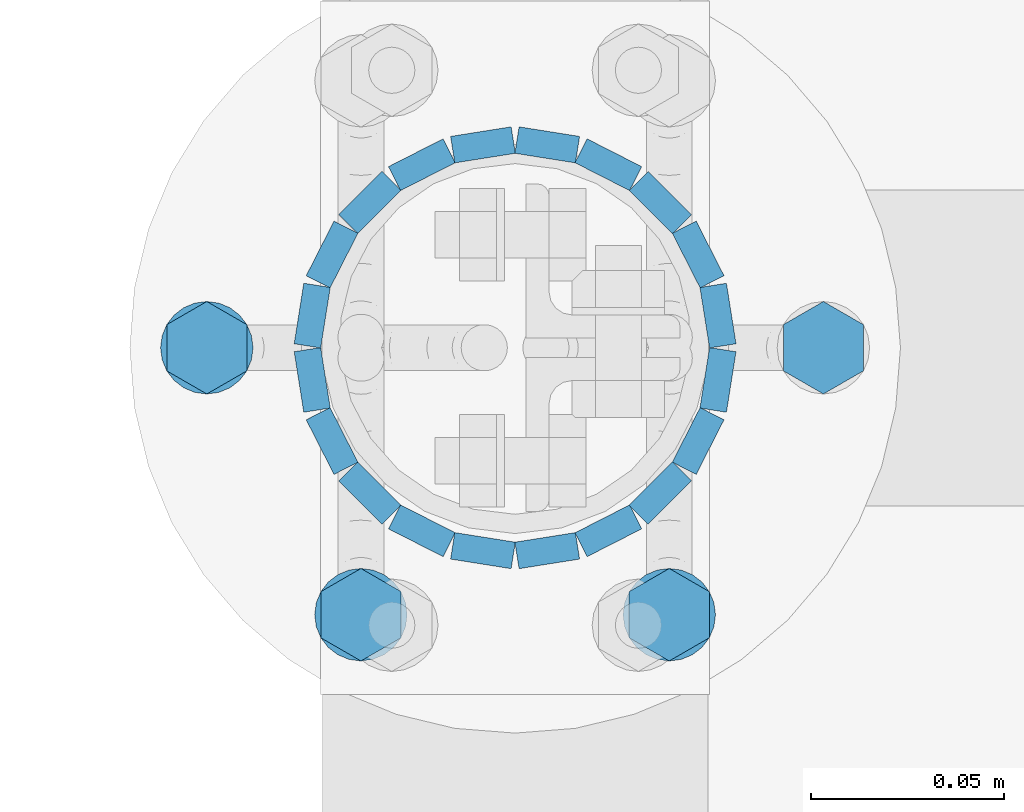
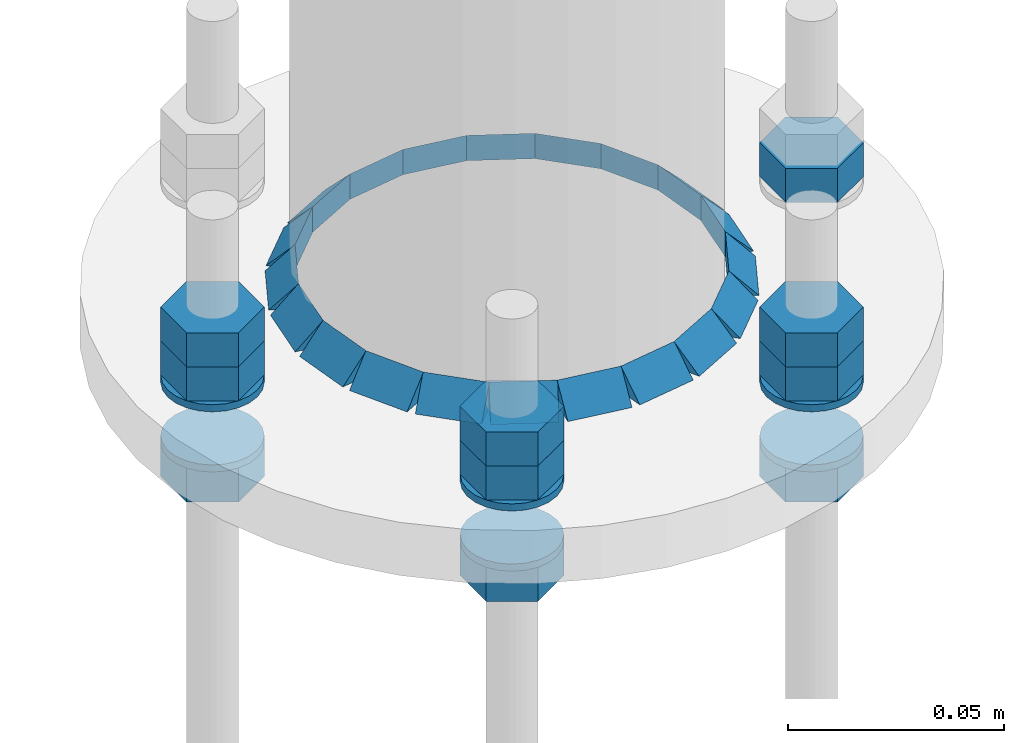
# One storey, part 16 of 84: 40 fasteners, 16 mechanical fasteners.
"""IFC4 building model written with IfcOpenShell, lengths in metres."""

from ifc_helpers import new_model, si_unit, frame, origin_with_axes, place, context, project, spatial, polyline, outline, extrude, type_object, element, save


model = new_model("IFC4")

# Units and contexts
model_context = context("Model", 3, precision=1e-05, world=origin_with_axes())
ifc_project = project(units=[si_unit("LENGTHUNIT", "METRE"), si_unit("AREAUNIT", "SQUARE_METRE"), si_unit("VOLUMEUNIT", "CUBIC_METRE"), si_unit("MASSUNIT", "GRAM", prefix="KILO"), si_unit("TIMEUNIT", "SECOND"), si_unit("PLANEANGLEUNIT", "RADIAN"), si_unit("SOLIDANGLEUNIT", "STERADIAN"), si_unit("THERMODYNAMICTEMPERATUREUNIT", "DEGREE_CELSIUS")], contexts=[model_context])

# Site, building, storey
placement_1 = place(None, origin_with_axes())
site = spatial("IfcSite", under=ifc_project, at=placement_1, Name="Italia", CompositionType="ELEMENT")
building = spatial("IfcBuilding", under=site, at=placement_1, Name="Tettoia", CompositionType="ELEMENT")
storey_placement = place(None, frame((0.0, 0.0, 4.199999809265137), z_axis=(0.0, 0.0, 1.0), x_axis=(1.0, 0.0, 0.0)))
storey = spatial("IfcBuildingStorey", under=building, at=storey_placement, Name="Storey 1", CompositionType="ELEMENT", Elevation=4.199999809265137)

# Fasteners
fastener_type_1 = type_object("IfcFastenerType", Name="Collegamento -001_0101", PredefinedType="WELD")
placement_2 = place(placement_1, origin_with_axes())
fastener_1_placement = place(placement_2, origin_with_axes())
element("IfcFastener", 1, at=fastener_1_placement, inside=storey, type_object=fastener_type_1, Name="Collegamento -001_0101", context=model_context, shape_type="SweptSolid", body=[
    extrude(outline(polyline([(0.0, 0.0), (0.00695801, 0.00717354), (0.00695801, 0.0), (0.0, 0.0)])), frame((8.30674, 2.05484, 4.01495), z_axis=(-0.987689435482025, 0.156427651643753, 0.0), x_axis=(-0.156427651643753, -0.987689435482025, 0.0)), (0.0, 0.0, 1.0), 0.0158999),
])
fastener_type_2 = type_object("IfcFastenerType", Name="Collegamento -001_0101", PredefinedType="WELD")
fastener_2_placement = place(placement_2, origin_with_axes())
element("IfcFastener", 2, at=fastener_2_placement, inside=storey, type_object=fastener_type_2, Name="Collegamento -001_0101", context=model_context, shape_type="SweptSolid", body=[
    extrude(outline(polyline([(0.0, 0.0), (0.00695801, 0.00717354), (0.00695801, 0.0), (0.0, 0.0)])), frame((8.32286, 2.04699, 4.01495), z_axis=(-0.891006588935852, 0.453990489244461, 0.0), x_axis=(-0.453990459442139, -0.891006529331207, 0.0)), (0.0, 0.0, 1.0), 0.0158998),
])
fastener_type_3 = type_object("IfcFastenerType", Name="Collegamento -001_0101", PredefinedType="WELD")
fastener_3_placement = place(placement_2, origin_with_axes())
element("IfcFastener", 3, at=fastener_3_placement, inside=storey, type_object=fastener_type_3, Name="Collegamento -001_0101", context=model_context, shape_type="SweptSolid", body=[
    extrude(outline(polyline([(0.0, 0.0), (0.00695801, 0.00717354), (0.00695801, 0.0), (0.0, 0.0)])), frame((8.33578, 2.03453, 4.01495), z_axis=(-0.707099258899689, 0.707114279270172, 0.0), x_axis=(-0.707114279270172, -0.707099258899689, 0.0)), (0.0, 0.0, 1.0), 0.0159),
])
fastener_type_4 = type_object("IfcFastenerType", Name="Collegamento -001_0101", PredefinedType="WELD")
fastener_4_placement = place(placement_2, origin_with_axes())
element("IfcFastener", 4, at=fastener_4_placement, inside=storey, type_object=fastener_type_4, Name="Collegamento -001_0101", context=model_context, shape_type="SweptSolid", body=[
    extrude(outline(polyline([(0.0, 0.0), (0.00695801, 0.00717354), (0.00695801, 0.0), (0.0, 0.0)])), frame((8.34421, 2.0187, 4.01495), z_axis=(-0.453990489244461, 0.891006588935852, 0.0), x_axis=(-0.891006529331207, -0.453990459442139, 0.0)), (0.0, 0.0, 1.0), 0.0158998),
])
fastener_type_5 = type_object("IfcFastenerType", Name="Collegamento -001_0101", PredefinedType="WELD")
fastener_5_placement = place(placement_2, origin_with_axes())
element("IfcFastener", 5, at=fastener_5_placement, inside=storey, type_object=fastener_type_5, Name="Collegamento -001_0101", context=model_context, shape_type="SweptSolid", body=[
    extrude(outline(polyline([(0.0, 0.0), (0.00695801, 0.00717354), (0.00695801, 0.0), (0.0, 0.0)])), frame((8.34733, 2.00103, 4.01495), z_axis=(-0.1564861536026, 0.987680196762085, 0.0), x_axis=(-0.98768013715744, -0.156486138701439, 0.0)), (0.0, 0.0, 1.0), 0.0159),
])
fastener_type_6 = type_object("IfcFastenerType", Name="Collegamento -001_0101", PredefinedType="WELD")
fastener_6_placement = place(placement_2, origin_with_axes())
element("IfcFastener", 6, at=fastener_6_placement, inside=storey, type_object=fastener_type_6, Name="Collegamento -001_0101", context=model_context, shape_type="SweptSolid", body=[
    extrude(outline(polyline([(0.0, 0.0), (0.00695801, 0.00717354), (0.00695801, 0.0), (0.0, 0.0)])), frame((8.34484, 1.98326, 4.01495), z_axis=(0.1564861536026, 0.987680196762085, 0.0), x_axis=(-0.98768013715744, 0.156486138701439, 0.0)), (0.0, 0.0, 1.0), 0.0159),
])
fastener_type_7 = type_object("IfcFastenerType", Name="Collegamento -001_0101", PredefinedType="WELD")
fastener_7_placement = place(placement_2, origin_with_axes())
element("IfcFastener", 7, at=fastener_7_placement, inside=storey, type_object=fastener_type_7, Name="Collegamento -001_0101", context=model_context, shape_type="SweptSolid", body=[
    extrude(outline(polyline([(0.0, 0.0), (0.00695801, 0.00717354), (0.00695801, 0.0), (0.0, 0.0)])), frame((8.33699, 1.96714, 4.01495), z_axis=(0.453990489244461, 0.891006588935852, 0.0), x_axis=(-0.891006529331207, 0.453990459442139, 0.0)), (0.0, 0.0, 1.0), 0.0158998),
])
fastener_type_8 = type_object("IfcFastenerType", Name="Collegamento -001_0101", PredefinedType="WELD")
fastener_8_placement = place(placement_2, origin_with_axes())
element("IfcFastener", 8, at=fastener_8_placement, inside=storey, type_object=fastener_type_8, Name="Collegamento -001_0101", context=model_context, shape_type="SweptSolid", body=[
    extrude(outline(polyline([(0.0, 0.0), (0.00695848, 0.00717354), (0.00695848, 0.0), (0.0, 0.0)])), frame((8.32453, 1.95422, 4.01495), z_axis=(0.70710301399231, 0.707110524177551, 0.0), x_axis=(-0.707110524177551, 0.70710301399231, 0.0)), (0.0, 0.0, 1.0), 0.0158999),
])
fastener_type_9 = type_object("IfcFastenerType", Name="Collegamento -001_0101", PredefinedType="WELD")
fastener_9_placement = place(placement_2, origin_with_axes())
element("IfcFastener", 9, at=fastener_9_placement, inside=storey, type_object=fastener_type_9, Name="Collegamento -001_0101", context=model_context, shape_type="SweptSolid", body=[
    extrude(outline(polyline([(0.0, 0.0), (0.00695848, 0.00717354), (0.00695848, 0.0), (0.0, 0.0)])), frame((8.3087, 1.94579, 4.01495), z_axis=(0.891009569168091, 0.453984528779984, 0.0), x_axis=(-0.453984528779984, 0.891009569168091, 0.0)), (0.0, 0.0, 1.0), 0.0158998),
])
fastener_type_10 = type_object("IfcFastenerType", Name="Collegamento -001_0101", PredefinedType="WELD")
fastener_10_placement = place(placement_2, origin_with_axes())
element("IfcFastener", 10, at=fastener_10_placement, inside=storey, type_object=fastener_type_10, Name="Collegamento -001_0101", context=model_context, shape_type="SweptSolid", body=[
    extrude(outline(polyline([(0.0, 0.0), (0.00695813, 0.00717354), (0.00695813, 0.0), (0.0, 0.0)])), frame((8.29103, 1.94267, 4.01495), z_axis=(0.987688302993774, 0.156434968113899, 0.0), x_axis=(-0.156434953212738, 0.98768824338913, 0.0)), (0.0, 0.0, 1.0), 0.0158999),
])
fastener_type_11 = type_object("IfcFastenerType", Name="Collegamento -001_0101", PredefinedType="WELD")
fastener_11_placement = place(placement_2, origin_with_axes())
element("IfcFastener", 11, at=fastener_11_placement, inside=storey, type_object=fastener_type_11, Name="Collegamento -001_0101", context=model_context, shape_type="SweptSolid", body=[
    extrude(outline(polyline([(0.0, 0.0), (0.00695825, 0.00717354), (0.00695825, 0.0), (0.0, 0.0)])), frame((8.27326, 1.94516, 4.01495), z_axis=(0.987688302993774, -0.156434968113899, 0.0), x_axis=(0.156434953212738, 0.98768824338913, 0.0)), (0.0, 0.0, 1.0), 0.0158999),
])
fastener_type_12 = type_object("IfcFastenerType", Name="Collegamento -001_0101", PredefinedType="WELD")
fastener_12_placement = place(placement_2, origin_with_axes())
element("IfcFastener", 12, at=fastener_12_placement, inside=storey, type_object=fastener_type_12, Name="Collegamento -001_0101", context=model_context, shape_type="SweptSolid", body=[
    extrude(outline(polyline([(0.0, 0.0), (0.00695801, 0.00717354), (0.00695801, 0.0), (0.0, 0.0)])), frame((8.25714, 1.95301, 4.01495), z_axis=(0.891009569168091, -0.453984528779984, 0.0), x_axis=(0.453984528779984, 0.891009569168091, 0.0)), (0.0, 0.0, 1.0), 0.0158998),
])
fastener_type_13 = type_object("IfcFastenerType", Name="Collegamento -001_0101", PredefinedType="WELD")
fastener_13_placement = place(placement_2, origin_with_axes())
element("IfcFastener", 13, at=fastener_13_placement, inside=storey, type_object=fastener_type_13, Name="Collegamento -001_0101", context=model_context, shape_type="SweptSolid", body=[
    extrude(outline(polyline([(0.0, 0.0), (0.00695801, 0.00717354), (0.00695801, 0.0), (0.0, 0.0)])), frame((8.24422, 1.96547, 4.01495), z_axis=(0.70710301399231, -0.707110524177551, 0.0), x_axis=(0.707110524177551, 0.70710301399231, 0.0)), (0.0, 0.0, 1.0), 0.0158999),
])
fastener_type_14 = type_object("IfcFastenerType", Name="Collegamento -001_0101", PredefinedType="WELD")
fastener_14_placement = place(placement_2, origin_with_axes())
element("IfcFastener", 14, at=fastener_14_placement, inside=storey, type_object=fastener_type_14, Name="Collegamento -001_0101", context=model_context, shape_type="SweptSolid", body=[
    extrude(outline(polyline([(0.0, 0.0), (0.00695801, 0.00717354), (0.00695801, 0.0), (0.0, 0.0)])), frame((8.23579, 1.9813, 4.01495), z_axis=(0.453990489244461, -0.891006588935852, 0.0), x_axis=(0.891006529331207, 0.453990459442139, 0.0)), (0.0, 0.0, 1.0), 0.0158998),
])
fastener_type_15 = type_object("IfcFastenerType", Name="Collegamento -001_0101", PredefinedType="WELD")
fastener_15_placement = place(placement_2, origin_with_axes())
element("IfcFastener", 15, at=fastener_15_placement, inside=storey, type_object=fastener_type_15, Name="Collegamento -001_0101", context=model_context, shape_type="SweptSolid", body=[
    extrude(outline(polyline([(0.0, 0.0), (0.00695992, 0.00717354), (0.00695992, 0.0), (0.0, 0.0)])), frame((8.23267, 1.99897, 4.01495), z_axis=(0.1564861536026, -0.987680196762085, 0.0), x_axis=(0.98768013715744, 0.156486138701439, 0.0)), (0.0, 0.0, 1.0), 0.0159),
])
fastener_type_16 = type_object("IfcFastenerType", Name="Collegamento -001_0101", PredefinedType="WELD")
fastener_16_placement = place(placement_2, origin_with_axes())
element("IfcFastener", 16, at=fastener_16_placement, inside=storey, type_object=fastener_type_16, Name="Collegamento -001_0101", context=model_context, shape_type="SweptSolid", body=[
    extrude(outline(polyline([(0.0, 0.0), (0.00695801, 0.00717354), (0.00695801, 0.0), (0.0, 0.0)])), frame((8.23516, 2.01674, 4.01495), z_axis=(-0.1564861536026, -0.987680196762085, 0.0), x_axis=(0.98768013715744, -0.156486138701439, 0.0)), (0.0, 0.0, 1.0), 0.0159),
])
fastener_type_17 = type_object("IfcFastenerType", Name="Collegamento -001_0101", PredefinedType="WELD")
fastener_17_placement = place(placement_2, origin_with_axes())
element("IfcFastener", 17, at=fastener_17_placement, inside=storey, type_object=fastener_type_17, Name="Collegamento -001_0101", context=model_context, shape_type="SweptSolid", body=[
    extrude(outline(polyline([(0.0, 0.0), (0.00695801, 0.00717354), (0.00695801, 0.0), (0.0, 0.0)])), frame((8.24301, 2.03286, 4.01495), z_axis=(-0.453990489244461, -0.891006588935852, 0.0), x_axis=(0.891006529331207, -0.453990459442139, 0.0)), (0.0, 0.0, 1.0), 0.0158998),
])
fastener_type_18 = type_object("IfcFastenerType", Name="Collegamento -001_0101", PredefinedType="WELD")
fastener_18_placement = place(placement_2, origin_with_axes())
element("IfcFastener", 18, at=fastener_18_placement, inside=storey, type_object=fastener_type_18, Name="Collegamento -001_0101", context=model_context, shape_type="SweptSolid", body=[
    extrude(outline(polyline([(0.0, 0.0), (0.00695801, 0.00717354), (0.00695801, 0.0), (0.0, 0.0)])), frame((8.25547, 2.04578, 4.01495), z_axis=(-0.707099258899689, -0.707114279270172, 0.0), x_axis=(0.707114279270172, -0.707099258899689, 0.0)), (0.0, 0.0, 1.0), 0.0159),
])
fastener_type_19 = type_object("IfcFastenerType", Name="Collegamento -001_0101", PredefinedType="WELD")
fastener_19_placement = place(placement_2, origin_with_axes())
element("IfcFastener", 19, at=fastener_19_placement, inside=storey, type_object=fastener_type_19, Name="Collegamento -001_0101", context=model_context, shape_type="SweptSolid", body=[
    extrude(outline(polyline([(0.0, 0.0), (0.00695872, 0.00717354), (0.00695872, 0.0), (0.0, 0.0)])), frame((8.2713, 2.05421, 4.01495), z_axis=(-0.891006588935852, -0.453990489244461, 0.0), x_axis=(0.453990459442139, -0.891006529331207, 0.0)), (0.0, 0.0, 1.0), 0.0158998),
])
fastener_type_20 = type_object("IfcFastenerType", Name="Collegamento -001_0101", PredefinedType="WELD")
fastener_20_placement = place(placement_2, origin_with_axes())
element("IfcFastener", 20, at=fastener_20_placement, inside=storey, type_object=fastener_type_20, Name="Collegamento -001_0101", context=model_context, shape_type="SweptSolid", body=[
    extrude(outline(polyline([(0.0, 0.0), (0.00695801, 0.00717354), (0.00695801, 0.0), (0.0, 0.0)])), frame((8.28897, 2.05733, 4.01495), z_axis=(-0.987689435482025, -0.156427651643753, 0.0), x_axis=(0.156427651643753, -0.987689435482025, 0.0)), (0.0, 0.0, 1.0), 0.0158999),
])
fastener_type_21 = type_object("IfcFastenerType", Name="Collegamento -001_0101", PredefinedType="WELD")
fastener_21_placement = place(placement_2, origin_with_axes())
element("IfcFastener", 21, at=fastener_21_placement, inside=storey, type_object=fastener_type_21, Name="Collegamento -001_0101", context=model_context, shape_type="SweptSolid", body=[
    extrude(outline(polyline([(0.0, 0.0), (0.00695801, 0.00717354), (0.00695801, 0.0), (0.0, 0.0)])), frame((8.30674, 2.05484, 4.01495), z_axis=(-0.987689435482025, 0.156427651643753, 0.0), x_axis=(-0.156427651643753, -0.987689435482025, 0.0)), (0.0, 0.0, 1.0), 0.0158999),
])
fastener_type_22 = type_object("IfcFastenerType", Name="Collegamento -001_0101", PredefinedType="WELD")
fastener_22_placement = place(placement_2, origin_with_axes())
element("IfcFastener", 22, at=fastener_22_placement, inside=storey, type_object=fastener_type_22, Name="Collegamento -001_0101", context=model_context, shape_type="SweptSolid", body=[
    extrude(outline(polyline([(0.0, 0.0), (0.00695801, 0.00717354), (0.00695801, 0.0), (0.0, 0.0)])), frame((8.32286, 2.04699, 4.01495), z_axis=(-0.891006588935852, 0.453990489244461, 0.0), x_axis=(-0.453990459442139, -0.891006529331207, 0.0)), (0.0, 0.0, 1.0), 0.0158998),
])
fastener_type_23 = type_object("IfcFastenerType", Name="Collegamento -001_0101", PredefinedType="WELD")
fastener_23_placement = place(placement_2, origin_with_axes())
element("IfcFastener", 23, at=fastener_23_placement, inside=storey, type_object=fastener_type_23, Name="Collegamento -001_0101", context=model_context, shape_type="SweptSolid", body=[
    extrude(outline(polyline([(0.0, 0.0), (0.00695801, 0.00717354), (0.00695801, 0.0), (0.0, 0.0)])), frame((8.33578, 2.03453, 4.01495), z_axis=(-0.707099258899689, 0.707114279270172, 0.0), x_axis=(-0.707114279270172, -0.707099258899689, 0.0)), (0.0, 0.0, 1.0), 0.0159),
])
fastener_type_24 = type_object("IfcFastenerType", Name="Collegamento -001_0101", PredefinedType="WELD")
fastener_24_placement = place(placement_2, origin_with_axes())
element("IfcFastener", 24, at=fastener_24_placement, inside=storey, type_object=fastener_type_24, Name="Collegamento -001_0101", context=model_context, shape_type="SweptSolid", body=[
    extrude(outline(polyline([(0.0, 0.0), (0.00695801, 0.00717354), (0.00695801, 0.0), (0.0, 0.0)])), frame((8.34421, 2.0187, 4.01495), z_axis=(-0.453990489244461, 0.891006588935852, 0.0), x_axis=(-0.891006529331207, -0.453990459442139, 0.0)), (0.0, 0.0, 1.0), 0.0158998),
])
fastener_type_25 = type_object("IfcFastenerType", Name="Collegamento -001_0101", PredefinedType="WELD")
fastener_25_placement = place(placement_2, origin_with_axes())
element("IfcFastener", 25, at=fastener_25_placement, inside=storey, type_object=fastener_type_25, Name="Collegamento -001_0101", context=model_context, shape_type="SweptSolid", body=[
    extrude(outline(polyline([(0.0, 0.0), (0.00695801, 0.00717354), (0.00695801, 0.0), (0.0, 0.0)])), frame((8.34733, 2.00103, 4.01495), z_axis=(-0.1564861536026, 0.987680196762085, 0.0), x_axis=(-0.98768013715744, -0.156486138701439, 0.0)), (0.0, 0.0, 1.0), 0.0159),
])
fastener_type_26 = type_object("IfcFastenerType", Name="Collegamento -001_0101", PredefinedType="WELD")
fastener_26_placement = place(placement_2, origin_with_axes())
element("IfcFastener", 26, at=fastener_26_placement, inside=storey, type_object=fastener_type_26, Name="Collegamento -001_0101", context=model_context, shape_type="SweptSolid", body=[
    extrude(outline(polyline([(0.0, 0.0), (0.00695801, 0.00717354), (0.00695801, 0.0), (0.0, 0.0)])), frame((8.34484, 1.98326, 4.01495), z_axis=(0.1564861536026, 0.987680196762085, 0.0), x_axis=(-0.98768013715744, 0.156486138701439, 0.0)), (0.0, 0.0, 1.0), 0.0159),
])
fastener_type_27 = type_object("IfcFastenerType", Name="Collegamento -001_0101", PredefinedType="WELD")
fastener_27_placement = place(placement_2, origin_with_axes())
element("IfcFastener", 27, at=fastener_27_placement, inside=storey, type_object=fastener_type_27, Name="Collegamento -001_0101", context=model_context, shape_type="SweptSolid", body=[
    extrude(outline(polyline([(0.0, 0.0), (0.00695801, 0.00717354), (0.00695801, 0.0), (0.0, 0.0)])), frame((8.33699, 1.96714, 4.01495), z_axis=(0.453990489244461, 0.891006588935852, 0.0), x_axis=(-0.891006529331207, 0.453990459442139, 0.0)), (0.0, 0.0, 1.0), 0.0158998),
])
fastener_type_28 = type_object("IfcFastenerType", Name="Collegamento -001_0101", PredefinedType="WELD")
fastener_28_placement = place(placement_2, origin_with_axes())
element("IfcFastener", 28, at=fastener_28_placement, inside=storey, type_object=fastener_type_28, Name="Collegamento -001_0101", context=model_context, shape_type="SweptSolid", body=[
    extrude(outline(polyline([(0.0, 0.0), (0.00695848, 0.00717354), (0.00695848, 0.0), (0.0, 0.0)])), frame((8.32453, 1.95422, 4.01495), z_axis=(0.70710301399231, 0.707110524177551, 0.0), x_axis=(-0.707110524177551, 0.70710301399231, 0.0)), (0.0, 0.0, 1.0), 0.0158999),
])
fastener_type_29 = type_object("IfcFastenerType", Name="Collegamento -001_0101", PredefinedType="WELD")
fastener_29_placement = place(placement_2, origin_with_axes())
element("IfcFastener", 29, at=fastener_29_placement, inside=storey, type_object=fastener_type_29, Name="Collegamento -001_0101", context=model_context, shape_type="SweptSolid", body=[
    extrude(outline(polyline([(0.0, 0.0), (0.00695848, 0.00717354), (0.00695848, 0.0), (0.0, 0.0)])), frame((8.3087, 1.94579, 4.01495), z_axis=(0.891009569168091, 0.453984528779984, 0.0), x_axis=(-0.453984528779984, 0.891009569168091, 0.0)), (0.0, 0.0, 1.0), 0.0158998),
])
fastener_type_30 = type_object("IfcFastenerType", Name="Collegamento -001_0101", PredefinedType="WELD")
fastener_30_placement = place(placement_2, origin_with_axes())
element("IfcFastener", 30, at=fastener_30_placement, inside=storey, type_object=fastener_type_30, Name="Collegamento -001_0101", context=model_context, shape_type="SweptSolid", body=[
    extrude(outline(polyline([(0.0, 0.0), (0.00695813, 0.00717354), (0.00695813, 0.0), (0.0, 0.0)])), frame((8.29103, 1.94267, 4.01495), z_axis=(0.987688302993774, 0.156434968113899, 0.0), x_axis=(-0.156434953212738, 0.98768824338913, 0.0)), (0.0, 0.0, 1.0), 0.0158999),
])
fastener_type_31 = type_object("IfcFastenerType", Name="Collegamento -001_0101", PredefinedType="WELD")
fastener_31_placement = place(placement_2, origin_with_axes())
element("IfcFastener", 31, at=fastener_31_placement, inside=storey, type_object=fastener_type_31, Name="Collegamento -001_0101", context=model_context, shape_type="SweptSolid", body=[
    extrude(outline(polyline([(0.0, 0.0), (0.00695825, 0.00717354), (0.00695825, 0.0), (0.0, 0.0)])), frame((8.27326, 1.94516, 4.01495), z_axis=(0.987688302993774, -0.156434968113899, 0.0), x_axis=(0.156434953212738, 0.98768824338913, 0.0)), (0.0, 0.0, 1.0), 0.0158999),
])
fastener_type_32 = type_object("IfcFastenerType", Name="Collegamento -001_0101", PredefinedType="WELD")
fastener_32_placement = place(placement_2, origin_with_axes())
element("IfcFastener", 32, at=fastener_32_placement, inside=storey, type_object=fastener_type_32, Name="Collegamento -001_0101", context=model_context, shape_type="SweptSolid", body=[
    extrude(outline(polyline([(0.0, 0.0), (0.00695801, 0.00717354), (0.00695801, 0.0), (0.0, 0.0)])), frame((8.25714, 1.95301, 4.01495), z_axis=(0.891009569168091, -0.453984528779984, 0.0), x_axis=(0.453984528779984, 0.891009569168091, 0.0)), (0.0, 0.0, 1.0), 0.0158998),
])
fastener_type_33 = type_object("IfcFastenerType", Name="Collegamento -001_0101", PredefinedType="WELD")
fastener_33_placement = place(placement_2, origin_with_axes())
element("IfcFastener", 33, at=fastener_33_placement, inside=storey, type_object=fastener_type_33, Name="Collegamento -001_0101", context=model_context, shape_type="SweptSolid", body=[
    extrude(outline(polyline([(0.0, 0.0), (0.00695801, 0.00717354), (0.00695801, 0.0), (0.0, 0.0)])), frame((8.24422, 1.96547, 4.01495), z_axis=(0.70710301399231, -0.707110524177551, 0.0), x_axis=(0.707110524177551, 0.70710301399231, 0.0)), (0.0, 0.0, 1.0), 0.0158999),
])
fastener_type_34 = type_object("IfcFastenerType", Name="Collegamento -001_0101", PredefinedType="WELD")
fastener_34_placement = place(placement_2, origin_with_axes())
element("IfcFastener", 34, at=fastener_34_placement, inside=storey, type_object=fastener_type_34, Name="Collegamento -001_0101", context=model_context, shape_type="SweptSolid", body=[
    extrude(outline(polyline([(0.0, 0.0), (0.00695801, 0.00717354), (0.00695801, 0.0), (0.0, 0.0)])), frame((8.23579, 1.9813, 4.01495), z_axis=(0.453990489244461, -0.891006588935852, 0.0), x_axis=(0.891006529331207, 0.453990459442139, 0.0)), (0.0, 0.0, 1.0), 0.0158998),
])
fastener_type_35 = type_object("IfcFastenerType", Name="Collegamento -001_0101", PredefinedType="WELD")
fastener_35_placement = place(placement_2, origin_with_axes())
element("IfcFastener", 35, at=fastener_35_placement, inside=storey, type_object=fastener_type_35, Name="Collegamento -001_0101", context=model_context, shape_type="SweptSolid", body=[
    extrude(outline(polyline([(0.0, 0.0), (0.00695992, 0.00717354), (0.00695992, 0.0), (0.0, 0.0)])), frame((8.23267, 1.99897, 4.01495), z_axis=(0.1564861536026, -0.987680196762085, 0.0), x_axis=(0.98768013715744, 0.156486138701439, 0.0)), (0.0, 0.0, 1.0), 0.0159),
])
fastener_type_36 = type_object("IfcFastenerType", Name="Collegamento -001_0101", PredefinedType="WELD")
fastener_36_placement = place(placement_2, origin_with_axes())
element("IfcFastener", 36, at=fastener_36_placement, inside=storey, type_object=fastener_type_36, Name="Collegamento -001_0101", context=model_context, shape_type="SweptSolid", body=[
    extrude(outline(polyline([(0.0, 0.0), (0.00695801, 0.00717354), (0.00695801, 0.0), (0.0, 0.0)])), frame((8.23516, 2.01674, 4.01495), z_axis=(-0.1564861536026, -0.987680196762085, 0.0), x_axis=(0.98768013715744, -0.156486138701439, 0.0)), (0.0, 0.0, 1.0), 0.0159),
])
fastener_type_37 = type_object("IfcFastenerType", Name="Collegamento -001_0101", PredefinedType="WELD")
fastener_37_placement = place(placement_2, origin_with_axes())
element("IfcFastener", 37, at=fastener_37_placement, inside=storey, type_object=fastener_type_37, Name="Collegamento -001_0101", context=model_context, shape_type="SweptSolid", body=[
    extrude(outline(polyline([(0.0, 0.0), (0.00695801, 0.00717354), (0.00695801, 0.0), (0.0, 0.0)])), frame((8.24301, 2.03286, 4.01495), z_axis=(-0.453990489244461, -0.891006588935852, 0.0), x_axis=(0.891006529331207, -0.453990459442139, 0.0)), (0.0, 0.0, 1.0), 0.0158998),
])
fastener_type_38 = type_object("IfcFastenerType", Name="Collegamento -001_0101", PredefinedType="WELD")
fastener_38_placement = place(placement_2, origin_with_axes())
element("IfcFastener", 38, at=fastener_38_placement, inside=storey, type_object=fastener_type_38, Name="Collegamento -001_0101", context=model_context, shape_type="SweptSolid", body=[
    extrude(outline(polyline([(0.0, 0.0), (0.00695801, 0.00717354), (0.00695801, 0.0), (0.0, 0.0)])), frame((8.25547, 2.04578, 4.01495), z_axis=(-0.707099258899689, -0.707114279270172, 0.0), x_axis=(0.707114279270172, -0.707099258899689, 0.0)), (0.0, 0.0, 1.0), 0.0159),
])
fastener_type_39 = type_object("IfcFastenerType", Name="Collegamento -001_0101", PredefinedType="WELD")
fastener_39_placement = place(placement_2, origin_with_axes())
element("IfcFastener", 39, at=fastener_39_placement, inside=storey, type_object=fastener_type_39, Name="Collegamento -001_0101", context=model_context, shape_type="SweptSolid", body=[
    extrude(outline(polyline([(0.0, 0.0), (0.00695872, 0.00717354), (0.00695872, 0.0), (0.0, 0.0)])), frame((8.2713, 2.05421, 4.01495), z_axis=(-0.891006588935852, -0.453990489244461, 0.0), x_axis=(0.453990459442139, -0.891006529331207, 0.0)), (0.0, 0.0, 1.0), 0.0158998),
])
fastener_type_40 = type_object("IfcFastenerType", Name="Collegamento -001_0101", PredefinedType="WELD")
fastener_40_placement = place(placement_2, origin_with_axes())
element("IfcFastener", 40, at=fastener_40_placement, inside=storey, type_object=fastener_type_40, Name="Collegamento -001_0101", context=model_context, shape_type="SweptSolid", body=[
    extrude(outline(polyline([(0.0, 0.0), (0.00695801, 0.00717354), (0.00695801, 0.0), (0.0, 0.0)])), frame((8.28897, 2.05733, 4.01495), z_axis=(-0.987689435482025, -0.156427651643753, 0.0), x_axis=(0.156427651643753, -0.987689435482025, 0.0)), (0.0, 0.0, 1.0), 0.0158999),
])

# Mechanical fasteners
mechanical_fastener_type_1 = type_object("IfcMechanicalFastenerType", Name="Collegamento -001_0101", PredefinedType="BOLT")
mechanical_fastener_1_placement = place(placement_2, origin_with_axes())
element("IfcMechanicalFastener", 41, at=mechanical_fastener_1_placement, inside=storey, type_object=mechanical_fastener_type_1, Name="Collegamento -001_0101", NominalDiameter=0.0119999, context=model_context, shape_type="SweptSolid", body=[
    extrude(outline(polyline([(0.0, 0.0), (-0.0120001, 0.0), (-0.018, 0.0103922), (-0.0120001, 0.0207844), (0.0, 0.0207844), (0.00600004, 0.0103922), (0.0, 0.0)])), frame((8.22039, 2.006, 4.017), z_axis=(0.0, 0.0, 1.0), x_axis=(0.0, 1.0, 0.0)), (0.0, 0.0, 1.0), 0.00959969),
])
mechanical_fastener_type_2 = type_object("IfcMechanicalFastenerType", Name="Collegamento -001_0101", PredefinedType="BOLT")
mechanical_fastener_2_placement = place(placement_2, origin_with_axes())
element("IfcMechanicalFastener", 42, at=mechanical_fastener_2_placement, inside=storey, type_object=mechanical_fastener_type_2, Name="Collegamento -001_0101", NominalDiameter=0.0119999, context=model_context, shape_type="SweptSolid", body=[
    extrude(outline(polyline([(0.0, 0.0), (-0.0120001, 0.0), (-0.018, 0.0103922), (-0.0120001, 0.0207844), (0.0, 0.0207844), (0.00600004, 0.0103922), (0.0, 0.0)])), frame((8.22039, 2.006, 4.0266), z_axis=(0.0, 0.0, 1.0), x_axis=(0.0, 1.0, 0.0)), (0.0, 0.0, 1.0), 0.00960016),
])
mechanical_fastener_type_3 = type_object("IfcMechanicalFastenerType", Name="Collegamento -001_0101", PredefinedType="BOLT")
mechanical_fastener_3_placement = place(placement_2, origin_with_axes())
element("IfcMechanicalFastener", 43, at=mechanical_fastener_3_placement, inside=storey, type_object=mechanical_fastener_type_3, Name="Collegamento -001_0101", NominalDiameter=0.0119999, context=model_context, shape_type="SweptSolid", body=[
    extrude(outline(polyline([(0.0, 0.0), (-0.0120001, 0.0), (-0.018, 0.0103922), (-0.0120001, 0.0207844), (0.0, 0.0207844), (0.00600004, 0.0103922), (0.0, 0.0)])), frame((8.22039, 2.006, 3.9884), z_axis=(0.0, 0.0, 1.0), x_axis=(0.0, 1.0, 0.0)), (0.0, 0.0, 1.0), 0.00959992),
])
mechanical_fastener_type_4 = type_object("IfcMechanicalFastenerType", Name="Collegamento -001_0101", PredefinedType="BOLT")
mechanical_fastener_4_placement = place(placement_2, origin_with_axes())
element("IfcMechanicalFastener", 44, at=mechanical_fastener_4_placement, inside=storey, type_object=mechanical_fastener_type_4, Name="Collegamento -001_0101", NominalDiameter=0.024, context=model_context, shape_type="SweptSolid", body=[
    extrude(outline(polyline([(0.0, 0.0), (-0.000408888, -0.00310612), (-0.00160789, -0.00599957), (-0.00351477, -0.00848484), (-0.00600004, -0.0103922), (-0.00889421, -0.011591), (-0.0120001, -0.0120001), (-0.015106, -0.011591), (-0.0180001, -0.0103922), (-0.0204854, -0.00848484), (-0.0223924, -0.00599957), (-0.0235912, -0.00310612), (-0.024, 0.0), (-0.0235912, 0.00310612), (-0.0223924, 0.00599957), (-0.0204854, 0.00848484), (-0.0180001, 0.0103922), (-0.015106, 0.011591), (-0.0120001, 0.0120001), (-0.00889421, 0.011591), (-0.00600004, 0.0103922), (-0.00351477, 0.00848484), (-0.00160789, 0.00599957), (-0.000408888, 0.00310612), (0.0, 0.0)])), frame((8.21, 2.012, 4.015), z_axis=(0.0, 0.0, 1.0), x_axis=(0.0, 1.0, 0.0)), (0.0, 0.0, 1.0), 0.00200033),
])
mechanical_fastener_type_5 = type_object("IfcMechanicalFastenerType", Name="Collegamento -001_0101", PredefinedType="BOLT")
mechanical_fastener_5_placement = place(placement_2, origin_with_axes())
element("IfcMechanicalFastener", 45, at=mechanical_fastener_5_placement, inside=storey, type_object=mechanical_fastener_type_5, Name="Collegamento -001_0101", NominalDiameter=0.024, context=model_context, shape_type="SweptSolid", body=[
    extrude(outline(polyline([(0.0, 0.0), (-0.000408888, -0.00310612), (-0.00160789, -0.00599957), (-0.00351477, -0.00848484), (-0.00600004, -0.0103922), (-0.00889421, -0.011591), (-0.0120001, -0.0120001), (-0.015106, -0.011591), (-0.0180001, -0.0103922), (-0.0204854, -0.00848484), (-0.0223924, -0.00599957), (-0.0235912, -0.00310612), (-0.024, 0.0), (-0.0235912, 0.00310612), (-0.0223924, 0.00599957), (-0.0204854, 0.00848484), (-0.0180001, 0.0103922), (-0.015106, 0.011591), (-0.0120001, 0.0120001), (-0.00889421, 0.011591), (-0.00600004, 0.0103922), (-0.00351477, 0.00848484), (-0.00160789, 0.00599957), (-0.000408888, 0.00310612), (0.0, 0.0)])), frame((8.21, 2.012, 3.998), z_axis=(0.0, 0.0, 1.0), x_axis=(0.0, 1.0, 0.0)), (0.0, 0.0, 1.0), 0.00200009),
])
mechanical_fastener_type_6 = type_object("IfcMechanicalFastenerType", Name="Collegamento -001_0101", PredefinedType="BOLT")
mechanical_fastener_6_placement = place(placement_2, origin_with_axes())
element("IfcMechanicalFastener", 46, at=mechanical_fastener_6_placement, inside=storey, type_object=mechanical_fastener_type_6, Name="Collegamento -001_0101", NominalDiameter=0.0119999, context=model_context, shape_type="SweptSolid", body=[
    extrude(outline(polyline([(0.0, 0.0), (-0.012, 0.0), (-0.018, 0.0103922), (-0.012, 0.0207844), (0.0, 0.0207844), (0.00600004, 0.0103922), (0.0, 0.0)])), frame((8.26039, 1.93672, 4.017), z_axis=(0.0, 0.0, 1.0), x_axis=(0.0, 1.0, 0.0)), (0.0, 0.0, 1.0), 0.00959969),
])
mechanical_fastener_type_7 = type_object("IfcMechanicalFastenerType", Name="Collegamento -001_0101", PredefinedType="BOLT")
mechanical_fastener_7_placement = place(placement_2, origin_with_axes())
element("IfcMechanicalFastener", 47, at=mechanical_fastener_7_placement, inside=storey, type_object=mechanical_fastener_type_7, Name="Collegamento -001_0101", NominalDiameter=0.0119999, context=model_context, shape_type="SweptSolid", body=[
    extrude(outline(polyline([(0.0, 0.0), (-0.012, 0.0), (-0.018, 0.0103922), (-0.012, 0.0207844), (0.0, 0.0207844), (0.00600004, 0.0103922), (0.0, 0.0)])), frame((8.26039, 1.93672, 4.0266), z_axis=(0.0, 0.0, 1.0), x_axis=(0.0, 1.0, 0.0)), (0.0, 0.0, 1.0), 0.00960016),
])
mechanical_fastener_type_8 = type_object("IfcMechanicalFastenerType", Name="Collegamento -001_0101", PredefinedType="BOLT")
mechanical_fastener_8_placement = place(placement_2, origin_with_axes())
element("IfcMechanicalFastener", 48, at=mechanical_fastener_8_placement, inside=storey, type_object=mechanical_fastener_type_8, Name="Collegamento -001_0101", NominalDiameter=0.0119999, context=model_context, shape_type="SweptSolid", body=[
    extrude(outline(polyline([(0.0, 0.0), (-0.012, 0.0), (-0.018, 0.0103922), (-0.012, 0.0207844), (0.0, 0.0207844), (0.00600004, 0.0103922), (0.0, 0.0)])), frame((8.26039, 1.93672, 3.9884), z_axis=(0.0, 0.0, 1.0), x_axis=(0.0, 1.0, 0.0)), (0.0, 0.0, 1.0), 0.00959992),
])
mechanical_fastener_type_9 = type_object("IfcMechanicalFastenerType", Name="Collegamento -001_0101", PredefinedType="BOLT")
mechanical_fastener_9_placement = place(placement_2, origin_with_axes())
element("IfcMechanicalFastener", 49, at=mechanical_fastener_9_placement, inside=storey, type_object=mechanical_fastener_type_9, Name="Collegamento -001_0101", NominalDiameter=0.024, context=model_context, shape_type="SweptSolid", body=[
    extrude(outline(polyline([(0.0, 0.0), (-0.000408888, -0.00310612), (-0.00160766, -0.00599957), (-0.00351465, -0.00848484), (-0.00599992, -0.0103922), (-0.00889409, -0.011591), (-0.012, -0.0120001), (-0.0151058, -0.011591), (-0.018, -0.0103922), (-0.0204853, -0.00848484), (-0.0223923, -0.00599957), (-0.023591, -0.00310612), (-0.0239999, 0.0), (-0.023591, 0.00310612), (-0.0223923, 0.00599957), (-0.0204853, 0.00848484), (-0.018, 0.0103922), (-0.0151058, 0.011591), (-0.012, 0.0120001), (-0.00889409, 0.011591), (-0.00599992, 0.0103922), (-0.00351465, 0.00848484), (-0.00160766, 0.00599957), (-0.000408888, 0.00310612), (0.0, 0.0)])), frame((8.25, 1.94272, 4.015), z_axis=(0.0, 0.0, 1.0), x_axis=(0.0, 1.0, 0.0)), (0.0, 0.0, 1.0), 0.00200033),
])
mechanical_fastener_type_10 = type_object("IfcMechanicalFastenerType", Name="Collegamento -001_0101", PredefinedType="BOLT")
mechanical_fastener_10_placement = place(placement_2, origin_with_axes())
element("IfcMechanicalFastener", 50, at=mechanical_fastener_10_placement, inside=storey, type_object=mechanical_fastener_type_10, Name="Collegamento -001_0101", NominalDiameter=0.024, context=model_context, shape_type="SweptSolid", body=[
    extrude(outline(polyline([(0.0, 0.0), (-0.000408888, -0.00310612), (-0.00160766, -0.00599957), (-0.00351465, -0.00848484), (-0.00599992, -0.0103922), (-0.00889409, -0.011591), (-0.012, -0.0120001), (-0.0151058, -0.011591), (-0.018, -0.0103922), (-0.0204853, -0.00848484), (-0.0223923, -0.00599957), (-0.023591, -0.00310612), (-0.0239999, 0.0), (-0.023591, 0.00310612), (-0.0223923, 0.00599957), (-0.0204853, 0.00848484), (-0.018, 0.0103922), (-0.0151058, 0.011591), (-0.012, 0.0120001), (-0.00889409, 0.011591), (-0.00599992, 0.0103922), (-0.00351465, 0.00848484), (-0.00160766, 0.00599957), (-0.000408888, 0.00310612), (0.0, 0.0)])), frame((8.25, 1.94272, 3.998), z_axis=(0.0, 0.0, 1.0), x_axis=(0.0, 1.0, 0.0)), (0.0, 0.0, 1.0), 0.00200009),
])
mechanical_fastener_type_11 = type_object("IfcMechanicalFastenerType", Name="Collegamento -001_0101", PredefinedType="BOLT")
mechanical_fastener_11_placement = place(placement_2, origin_with_axes())
element("IfcMechanicalFastener", 51, at=mechanical_fastener_11_placement, inside=storey, type_object=mechanical_fastener_type_11, Name="Collegamento -001_0101", NominalDiameter=0.0119999, context=model_context, shape_type="SweptSolid", body=[
    extrude(outline(polyline([(0.0, 0.0), (-0.012, 0.0), (-0.018, 0.0103922), (-0.012, 0.0207844), (0.0, 0.0207844), (0.00600004, 0.0103922), (0.0, 0.0)])), frame((8.34039, 1.93672, 4.017), z_axis=(0.0, 0.0, 1.0), x_axis=(0.0, 1.0, 0.0)), (0.0, 0.0, 1.0), 0.00959969),
])
mechanical_fastener_type_12 = type_object("IfcMechanicalFastenerType", Name="Collegamento -001_0101", PredefinedType="BOLT")
mechanical_fastener_12_placement = place(placement_2, origin_with_axes())
element("IfcMechanicalFastener", 52, at=mechanical_fastener_12_placement, inside=storey, type_object=mechanical_fastener_type_12, Name="Collegamento -001_0101", NominalDiameter=0.0119999, context=model_context, shape_type="SweptSolid", body=[
    extrude(outline(polyline([(0.0, 0.0), (-0.012, 0.0), (-0.018, 0.0103922), (-0.012, 0.0207844), (0.0, 0.0207844), (0.00600004, 0.0103922), (0.0, 0.0)])), frame((8.34039, 1.93672, 4.0266), z_axis=(0.0, 0.0, 1.0), x_axis=(0.0, 1.0, 0.0)), (0.0, 0.0, 1.0), 0.00960016),
])
mechanical_fastener_type_13 = type_object("IfcMechanicalFastenerType", Name="Collegamento -001_0101", PredefinedType="BOLT")
mechanical_fastener_13_placement = place(placement_2, origin_with_axes())
element("IfcMechanicalFastener", 53, at=mechanical_fastener_13_placement, inside=storey, type_object=mechanical_fastener_type_13, Name="Collegamento -001_0101", NominalDiameter=0.0119999, context=model_context, shape_type="SweptSolid", body=[
    extrude(outline(polyline([(0.0, 0.0), (-0.012, 0.0), (-0.018, 0.0103922), (-0.012, 0.0207844), (0.0, 0.0207844), (0.00600004, 0.0103922), (0.0, 0.0)])), frame((8.34039, 1.93672, 3.9884), z_axis=(0.0, 0.0, 1.0), x_axis=(0.0, 1.0, 0.0)), (0.0, 0.0, 1.0), 0.00959992),
])
mechanical_fastener_type_14 = type_object("IfcMechanicalFastenerType", Name="Collegamento -001_0101", PredefinedType="BOLT")
mechanical_fastener_14_placement = place(placement_2, origin_with_axes())
element("IfcMechanicalFastener", 54, at=mechanical_fastener_14_placement, inside=storey, type_object=mechanical_fastener_type_14, Name="Collegamento -001_0101", NominalDiameter=0.024, context=model_context, shape_type="SweptSolid", body=[
    extrude(outline(polyline([(0.0, 0.0), (-0.000408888, -0.00310612), (-0.00160766, -0.00599957), (-0.00351465, -0.00848484), (-0.00599992, -0.0103922), (-0.00889409, -0.011591), (-0.012, -0.0120001), (-0.0151058, -0.011591), (-0.018, -0.0103922), (-0.0204853, -0.00848484), (-0.0223923, -0.00599957), (-0.023591, -0.00310612), (-0.0239999, 0.0), (-0.023591, 0.00310612), (-0.0223923, 0.00599957), (-0.0204853, 0.00848484), (-0.018, 0.0103922), (-0.0151058, 0.011591), (-0.012, 0.0120001), (-0.00889409, 0.011591), (-0.00599992, 0.0103922), (-0.00351465, 0.00848484), (-0.00160766, 0.00599957), (-0.000408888, 0.00310612), (0.0, 0.0)])), frame((8.33, 1.94272, 4.015), z_axis=(0.0, 0.0, 1.0), x_axis=(0.0, 1.0, 0.0)), (0.0, 0.0, 1.0), 0.00200033),
])
mechanical_fastener_type_15 = type_object("IfcMechanicalFastenerType", Name="Collegamento -001_0101", PredefinedType="BOLT")
mechanical_fastener_15_placement = place(placement_2, origin_with_axes())
element("IfcMechanicalFastener", 55, at=mechanical_fastener_15_placement, inside=storey, type_object=mechanical_fastener_type_15, Name="Collegamento -001_0101", NominalDiameter=0.024, context=model_context, shape_type="SweptSolid", body=[
    extrude(outline(polyline([(0.0, 0.0), (-0.000408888, -0.00310612), (-0.00160766, -0.00599957), (-0.00351465, -0.00848484), (-0.00599992, -0.0103922), (-0.00889409, -0.011591), (-0.012, -0.0120001), (-0.0151058, -0.011591), (-0.018, -0.0103922), (-0.0204853, -0.00848484), (-0.0223923, -0.00599957), (-0.023591, -0.00310612), (-0.0239999, 0.0), (-0.023591, 0.00310612), (-0.0223923, 0.00599957), (-0.0204853, 0.00848484), (-0.018, 0.0103922), (-0.0151058, 0.011591), (-0.012, 0.0120001), (-0.00889409, 0.011591), (-0.00599992, 0.0103922), (-0.00351465, 0.00848484), (-0.00160766, 0.00599957), (-0.000408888, 0.00310612), (0.0, 0.0)])), frame((8.33, 1.94272, 3.998), z_axis=(0.0, 0.0, 1.0), x_axis=(0.0, 1.0, 0.0)), (0.0, 0.0, 1.0), 0.00200009),
])
mechanical_fastener_type_16 = type_object("IfcMechanicalFastenerType", Name="Collegamento -001_0101", PredefinedType="BOLT")
mechanical_fastener_16_placement = place(placement_2, origin_with_axes())
element("IfcMechanicalFastener", 56, at=mechanical_fastener_16_placement, inside=storey, type_object=mechanical_fastener_type_16, Name="Collegamento -001_0101", NominalDiameter=0.0119999, context=model_context, shape_type="SweptSolid", body=[
    extrude(outline(polyline([(0.0, 0.0), (-0.0120001, 0.0), (-0.018, 0.0103922), (-0.0120001, 0.0207844), (0.0, 0.0207844), (0.00600004, 0.0103922), (0.0, 0.0)])), frame((8.38039, 2.006, 4.017), z_axis=(0.0, 0.0, 1.0), x_axis=(0.0, 1.0, 0.0)), (0.0, 0.0, 1.0), 0.00959969),
])

save(model, "model.ifc")
